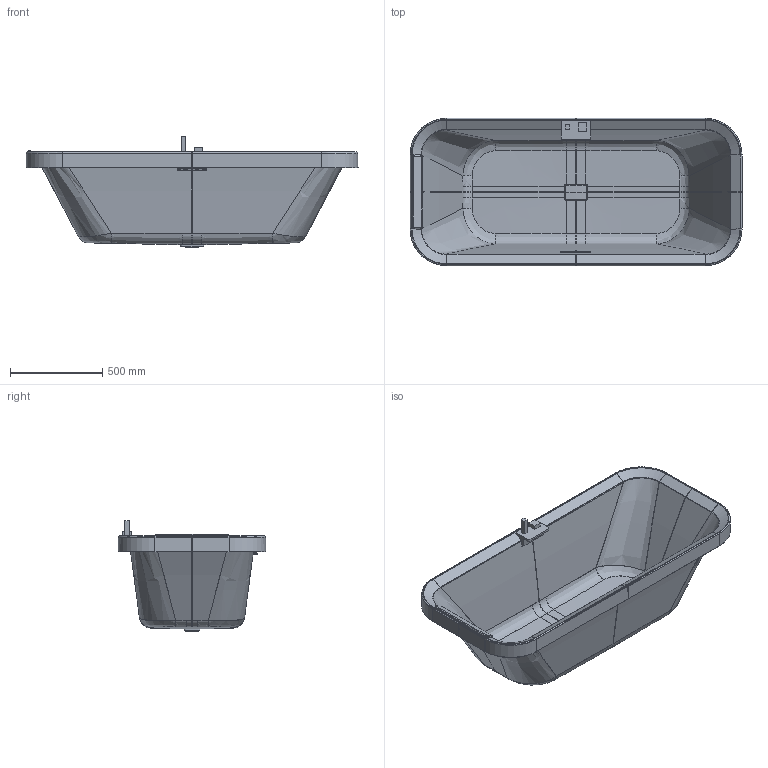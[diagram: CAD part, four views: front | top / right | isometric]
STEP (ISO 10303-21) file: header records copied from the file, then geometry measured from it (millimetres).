
FILE_DESCRIPTION(('STEP AP203'),'2;1');
FILE_NAME('DIV11808C2.stp','2017-07-25T11:04:49',(''),(''),'2016.1.120','THINKDESIGN','');
FILE_SCHEMA(('CONFIG_CONTROL_DESIGN'));
Length unit declared in the file: millimetre
Products named in the file (1): top
Bounding box: 1800.03 x 800.03 x 600.43 mm (x, y, z)
Volume: 10241344.2 mm3; surface area: 6496366.6 mm2
Topology: 5 solids, 5 shells, 864 faces, 2245 edges, 1340 vertices
Faces by surface type: plane 304, bspline 301, cylinder 259
Entity records: 40030 total; most frequent: CARTESIAN_POINT 20878, ORIENTED_EDGE 4470, DIRECTION 3273, EDGE_CURVE 2235, VERTEX_POINT 1340, VECTOR 1217, LINE 1217, AXIS2_PLACEMENT_3D 1028
